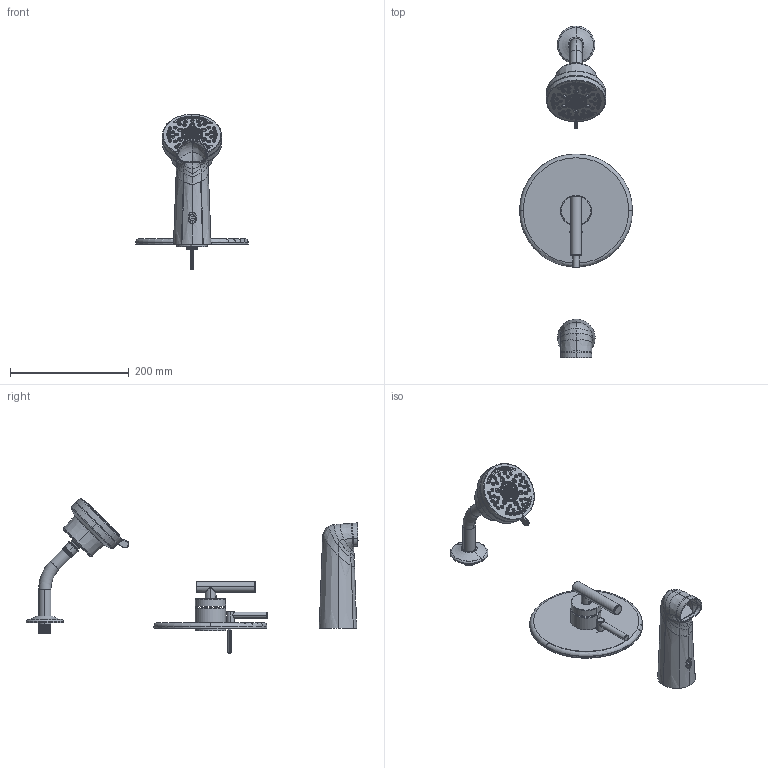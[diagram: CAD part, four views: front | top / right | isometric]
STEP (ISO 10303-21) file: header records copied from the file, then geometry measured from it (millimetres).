
FILE_DESCRIPTION (( 'STEP AP214' ), '1' );
FILE_NAME ('S3592BTRM.STEP', '2025-01-15T07:06:12', ( '' ), ( '' ), 'SwSTEP 2.0', 'SolidWorks 2023', '' );
FILE_SCHEMA (( 'AUTOMOTIVE_DESIGN' ));
Products named in the file (1): S3592BTRM
Bounding box: 190.5 x 560.07 x 263 mm (x, y, z)
Surface area: 217939.6 mm2 (no closed solid volume)
Topology: 0 solids, 127 shells, 974 faces, 3984 edges, 3066 vertices
Faces by surface type: bspline 396, cone 250, plane 168, cylinder 74, torus 66, sphere 20
Entity records: 162719 total; most frequent: CARTESIAN_POINT 134961, ORIENTED_EDGE 5584, DIRECTION 4294, EDGE_CURVE 3979, VERTEX_POINT 3063, B_SPLINE_CURVE_WITH_KNOTS 2084, AXIS2_PLACEMENT_3D 1834, EDGE_LOOP 1306
